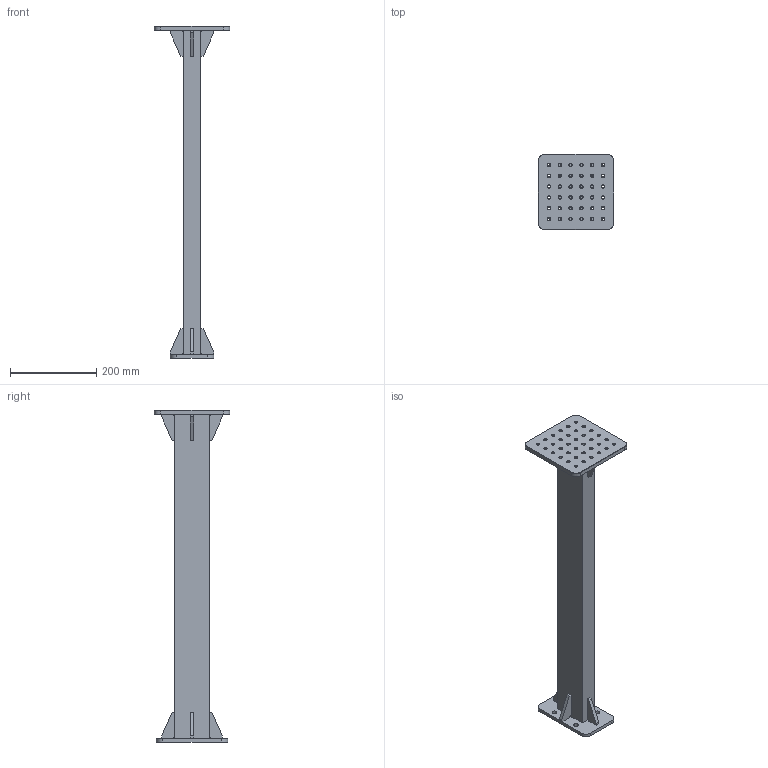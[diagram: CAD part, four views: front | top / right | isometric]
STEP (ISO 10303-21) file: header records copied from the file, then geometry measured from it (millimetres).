
FILE_DESCRIPTION(('CATIA V5 STEP Exchange','CAx-IF Rec.Pracs.--- Model Styling and Organization---1.5--- 2016-08-15','CAx-IF Rec.Pracs.---Supplemental Geometry---1.0---2011-11-01','CAx-IF Rec.Pracs.--- Composite Materials ---3.4---2017-06-13','CAx-IF Rec.Pracs.---Tessellated 3D Geometry---1.0---2015-12-17'),'2;1');
FILE_NAME('C:\Users\24193\Desktop\work down\箭体生产建设工作\回转台V1.3\20251121立柱加工\HZ-100-09.stp','2025-11-22T02:25:24+00:00',('none'),('none'),'CATIA Version 5-6 Release 2021 SP7','CATIA V5 STEP AP242 v2','none');
FILE_SCHEMA(('AP242_MANAGED_MODEL_BASED_3D_ENGINEERING_MIM_LF {1 0 10303 442 1 1 4}'));
Length unit declared in the file: millimetre
Products named in the file (1): HZ-100-09
Bounding box: 175 x 175 x 768 mm (x, y, z)
Volume: 1318416.6 mm3; surface area: 469031.7 mm2
Topology: 11 solids, 11 shells, 254 faces, 616 edges, 384 vertices
Faces by surface type: plane 90, cylinder 88, cone 76
Entity records: 6975 total; most frequent: ORIENTED_EDGE 1232, CARTESIAN_POINT 1183, DIRECTION 980, EDGE_CURVE 616, AXIS2_PLACEMENT_3D 435, VERTEX_POINT 384, VECTOR 364, LINE 364
